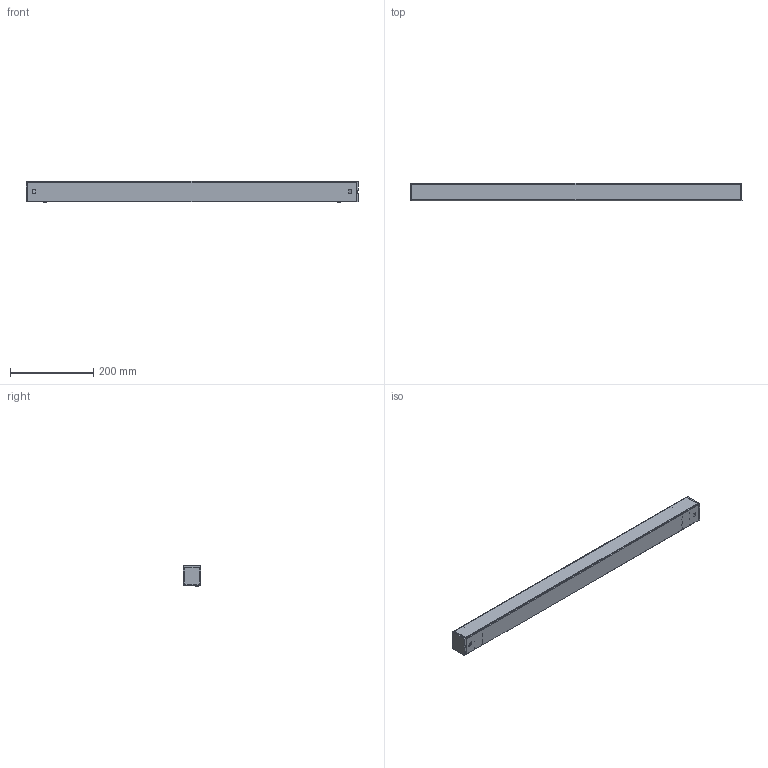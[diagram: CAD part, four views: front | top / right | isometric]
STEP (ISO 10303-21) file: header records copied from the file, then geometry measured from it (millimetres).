
FILE_DESCRIPTION((''),'2;1');
FILE_NAME('1617184717785_ASM','2021-03-31T15:28:57',('SESA176331'),('Schneider-Electric'),'CREO PARAMETRIC BY PTC INC, 2019164','CREO PARAMETRIC BY PTC INC, 2019164','');
FILE_SCHEMA(('AP242_MANAGED_MODEL_BASED_3D_ENGINEERING_MIM_LF { 1 0 10303 442 1 1 4 }'));
Length unit declared in the file: millimetre
Products named in the file (8): SETP-COVER-800_NNZ4557101; SETP-COVER-800_NNZ1946001; SETP-COVER-800_ASM; GDE7930101; SETP-HEAD-3D_ASM; GDE9918901; SETP-BRACKET-3D_ASM; 1617184717785_ASM
Assembly tree (9 placements, depth 3):
  1617184717785_ASM
    SETP-COVER-800_ASM
      SETP-COVER-800_NNZ4557101
      SETP-COVER-800_NNZ1946001
    SETP-HEAD-3D_ASM  x2
      GDE7930101
    SETP-BRACKET-3D_ASM  x2
      GDE9918901
Bounding box: 798 x 42.7 x 51.2 mm (x, y, z)
Volume: 170724.3 mm3; surface area: 319791.9 mm2
Topology: 8 solids, 8 shells, 406 faces, 1138 edges, 794 vertices
Faces by surface type: plane 356, cylinder 50
Entity records: 11943 total; most frequent: CARTESIAN_POINT 1476, ORIENTED_EDGE 1388, DIRECTION 1344, PRESENTATION_STYLE_ASSIGNMENT 723, STYLED_ITEM 722, CURVE_STYLE 717, EDGE_CURVE 694, VECTOR 644
